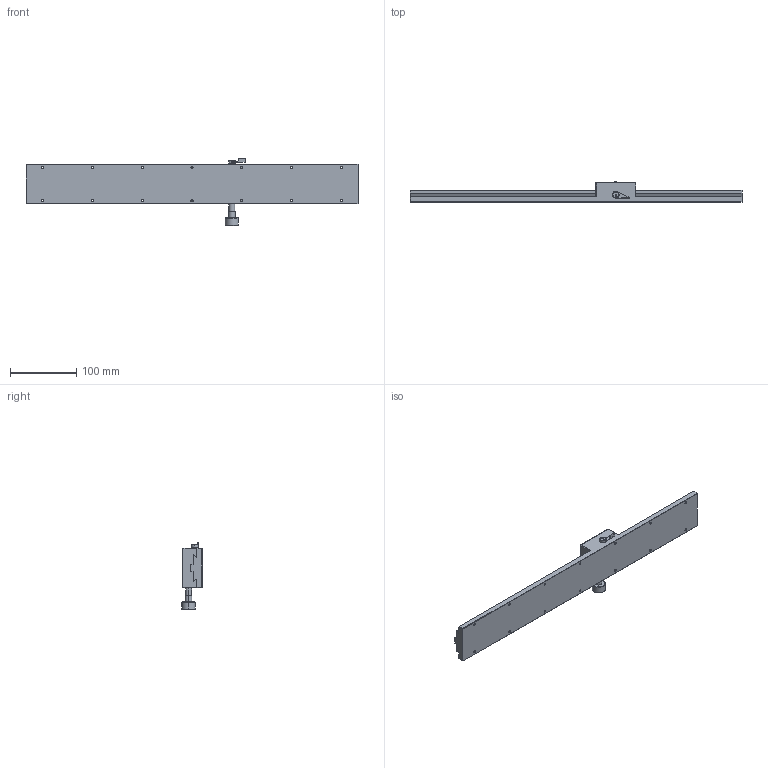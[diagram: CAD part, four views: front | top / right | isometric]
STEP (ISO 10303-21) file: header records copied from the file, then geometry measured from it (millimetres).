
FILE_DESCRIPTION (( 'STEP AP214' ), '1' );
FILE_NAME ('PT-DN60-500.STEP', '2022-08-27T09:12:40', ( '' ), ( '' ), 'SwSTEP 2.0', 'SolidWorks 2017', '' );
FILE_SCHEMA (( 'AUTOMOTIVE_DESIGN' ));
Length unit declared in the file: millimetre
Products named in the file (1): PT-DN60-500
Bounding box: 500 x 30.5 x 101 mm (x, y, z)
Volume: 419573.5 mm3; surface area: 97139.7 mm2
Topology: 1 solids, 6 shells, 505 faces, 1260 edges, 815 vertices
Faces by surface type: plane 247, cylinder 138, bspline 76, cone 44
Entity records: 18426 total; most frequent: CARTESIAN_POINT 6499, ORIENTED_EDGE 2520, DIRECTION 2292, EDGE_CURVE 1260, VERTEX_POINT 815, AXIS2_PLACEMENT_3D 768, LINE 756, VECTOR 756
